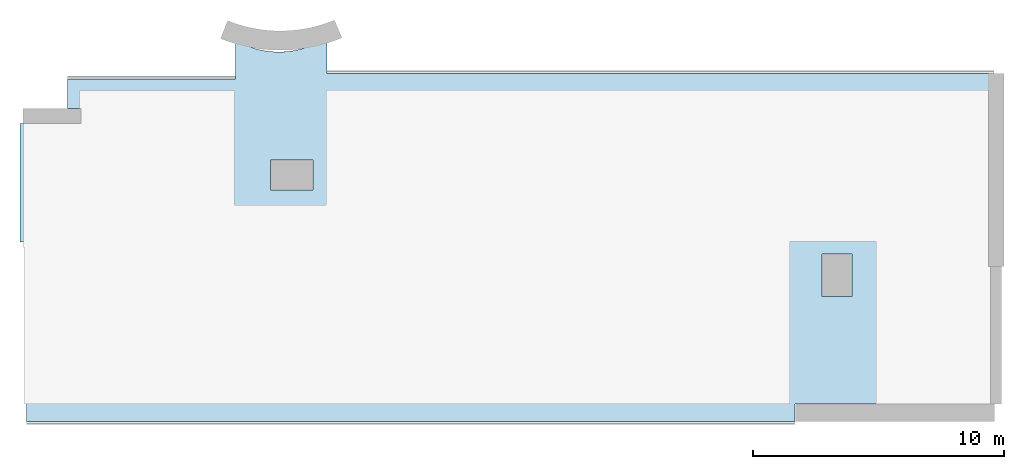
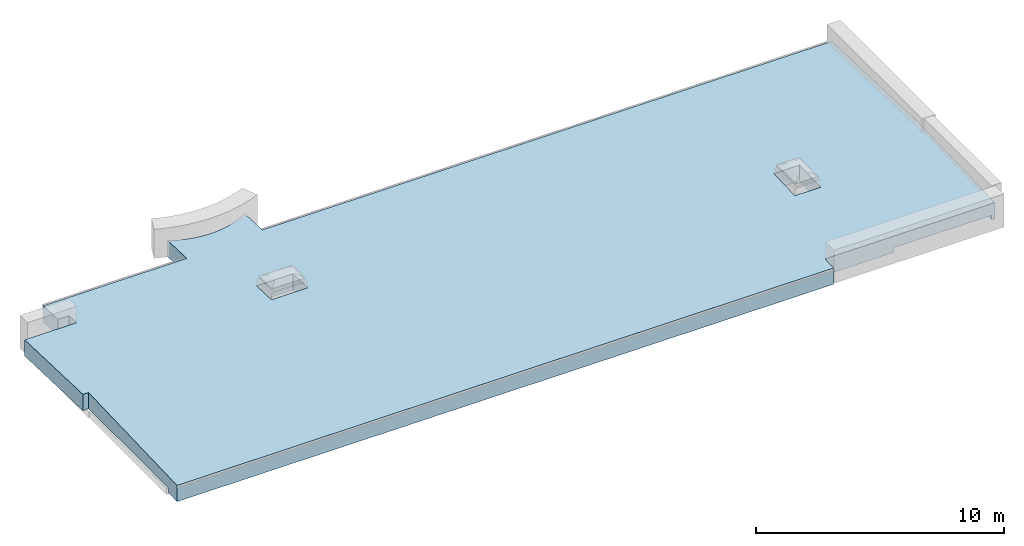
# One storey, part 2 of 4: 1 roof.
"""IFC2X3 building model written with IfcOpenShell, lengths in millimetres."""

from ifc_helpers import new_model, entity, si_unit, converted_unit, derived_unit, direction, frame, origin, place, context, subcontext, project, spatial, faceted_brep, material, layer, layer_set, element, save


model = new_model("IFC2X3")

# Units and contexts
model_context = context("Model", 3, precision=0.01, world=origin(), true_north=direction((6.12303176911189e-17, 1.0)))
body_context = subcontext(model_context, "Body", "Model", "MODEL_VIEW")
ifc_project = project(units=[si_unit("LENGTHUNIT", "METRE", prefix="MILLI"), si_unit("AREAUNIT", "SQUARE_METRE"), si_unit("VOLUMEUNIT", "CUBIC_METRE"), converted_unit("PLANEANGLEUNIT", "DEGREE", entity("IfcRatioMeasure", 0.0174532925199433), si_unit("PLANEANGLEUNIT", "RADIAN"), dimensions=[0, 0, 0, 0, 0, 0, 0]), si_unit("MASSUNIT", "GRAM", prefix="KILO"), derived_unit("MASSDENSITYUNIT", [(si_unit("MASSUNIT", "GRAM", prefix="KILO"), 1), (si_unit("LENGTHUNIT", "METRE"), -3)]), si_unit("TIMEUNIT", "SECOND"), si_unit("FREQUENCYUNIT", "HERTZ"), si_unit("THERMODYNAMICTEMPERATUREUNIT", "DEGREE_CELSIUS"), derived_unit("THERMALTRANSMITTANCEUNIT", [(si_unit("MASSUNIT", "GRAM", prefix="KILO"), 1), (si_unit("THERMODYNAMICTEMPERATUREUNIT", "KELVIN"), -1), (si_unit("TIMEUNIT", "SECOND"), -3)]), derived_unit("VOLUMETRICFLOWRATEUNIT", [(si_unit("LENGTHUNIT", "METRE"), 3), (si_unit("TIMEUNIT", "SECOND"), -1)]), si_unit("ELECTRICCURRENTUNIT", "AMPERE"), si_unit("ELECTRICVOLTAGEUNIT", "VOLT"), si_unit("POWERUNIT", "WATT"), si_unit("FORCEUNIT", "NEWTON", prefix="KILO"), si_unit("ILLUMINANCEUNIT", "LUX"), si_unit("LUMINOUSFLUXUNIT", "LUMEN"), si_unit("LUMINOUSINTENSITYUNIT", "CANDELA"), derived_unit("USERDEFINED", [(si_unit("MASSUNIT", "GRAM", prefix="KILO"), -1), (si_unit("LENGTHUNIT", "METRE"), -2), (si_unit("TIMEUNIT", "SECOND"), 3), (si_unit("LUMINOUSFLUXUNIT", "LUMEN"), 1)]), derived_unit("LINEARVELOCITYUNIT", [(si_unit("LENGTHUNIT", "METRE"), 1), (si_unit("TIMEUNIT", "SECOND"), -1)]), si_unit("PRESSUREUNIT", "PASCAL"), derived_unit("USERDEFINED", [(si_unit("LENGTHUNIT", "METRE"), -2), (si_unit("MASSUNIT", "GRAM", prefix="KILO"), 1), (si_unit("TIMEUNIT", "SECOND"), -2)]), derived_unit("LINEARFORCEUNIT", [(si_unit("MASSUNIT", "GRAM", prefix="KILO"), 1), (si_unit("LENGTHUNIT", "METRE"), 1), (si_unit("TIMEUNIT", "SECOND"), -2), (si_unit("LENGTHUNIT", "METRE"), -1)]), derived_unit("PLANARFORCEUNIT", [(si_unit("MASSUNIT", "GRAM", prefix="KILO"), 1), (si_unit("LENGTHUNIT", "METRE"), 1), (si_unit("TIMEUNIT", "SECOND"), -2), (si_unit("LENGTHUNIT", "METRE"), -2)])], contexts=[model_context])

# Site, building, storey
site_placement = place(None, origin())
site = spatial("IfcSite", under=ifc_project, at=site_placement, Name="Default", CompositionType="ELEMENT")
building_placement = place(site_placement, origin())
building = spatial("IfcBuilding", under=site, at=building_placement, Name="SMA ARH", CompositionType="ELEMENT")
storey_placement = place(building_placement, frame((0.0, 0.0, 13000.0)))
storey = spatial("IfcBuildingStorey", under=building, at=storey_placement, Name="Katus", CompositionType="ELEMENT", Elevation=12999.9999999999)

# Roof
ifc_material = material(Name="_ol.olev sein")
ifc_layer = layer(ifc_material, 800.0)
ifc_layer_set = layer_set([ifc_layer], Name="Basic Roof:Generic - 400mm")
roof_placement = place(storey_placement, frame((-226.757150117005, -700.0, -91.8913873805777)))
element("IfcRoof", 1, at=roof_placement, inside=storey, material=ifc_layer_set, Name="Basic Roof:Generic - 400mm", ObjectType="Basic Roof:Generic - 400mm", ShapeType="NOTDEFINED", context=body_context, shape_type="Brep", body=[
    faceted_brep([(38646.6581492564, 6314.92674997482, 272.413488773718), (38571.7571501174, 6314.92674997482, 272.413488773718), (38571.7571501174, 6932.49999999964, 293.979621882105), (38800.0, 6932.49999999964, 293.979621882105), (38800.0, 6180.0, 267.701742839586), (38800.0, 700.0, 76.3359260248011), (38646.6581492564, 700.0, 76.3359260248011), (38646.6581492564, 6180.0, 267.701742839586), (30676.7571501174, 700.0, 76.3359260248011), (250.0, 0.0, 51.8913873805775), (250.0, 700.0, 76.3359260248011), (30873.6581492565, 0.0, 51.8913873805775), (30873.6581492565, 700.0, 76.3359260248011), (31941.7571501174, 4980.0, 225.796819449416), (30676.7571501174, 6932.49999999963, 293.979621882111), (31941.7571501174, 6680.0, 285.162127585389), (33966.7571501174, 6932.49999999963, 293.979621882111), (33141.7571501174, 6680.0, 285.162127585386), (33141.7571501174, 4980.0, 225.796819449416), (34091.7571501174, 6932.49999999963, 293.979621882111), (34091.7571501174, 700.0, 76.3359260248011), (0.0, 11480.0, 135.177422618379), (0.0, 11870.0, 121.558322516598), (146.756622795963, 11870.0, 121.558322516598), (146.756622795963, 7160.0, 286.035146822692), (0.0, 7160.0, 286.035146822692), (0.0, 7420.0, 276.955746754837), (30676.7571501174, 6940.0, 293.717716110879), (30676.7571501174, 7180.0, 285.336731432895), (34091.7571501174, 7180.0, 285.336731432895), (12066.4543907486, 15202.2270705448, 5.19438909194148), (12230.0, 15305.2922924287, 1.5952722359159), (12230.0, 15069.9666790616, 9.81302373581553), (11897.392740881, 15108.4867688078, 8.46787256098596), (11723.3451920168, 15024.3651839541, 11.4054630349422), (12230.0, 13865.0, 51.8913873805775), (11544.8587183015, 14950.126610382, 13.9979311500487), (11362.4939263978, 14886.0041337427, 16.237137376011), (11176.823592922, 14832.1990757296, 18.1160514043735), (10988.4308669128, 14788.8803628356, 19.6287741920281), (10797.9074398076, 14756.1839966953, 20.7705564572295), (12186.7571501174, 13200.0, 75.113699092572), (12226.7571501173, 13200.0, 75.113699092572), (12296.7571501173, 13865.0, 51.8913873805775), (38571.7571501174, 13200.0, 75.113699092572), (38800.0, 13865.0, 51.8913873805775), (38800.0, 13200.0, 75.113699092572), (38800.0, 11144.5559381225, 146.891387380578), (38571.7571501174, 11144.5559381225, 146.891387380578), (10605.8516886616, 14734.2126276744, 21.5378135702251), (10412.8667984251, 14723.0352330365, 21.9281367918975), (8536.75715011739, 13176.2030428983, 75.9447071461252), (9976.54126785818, 10420.0, 172.193438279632), (11676.5412678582, 10420.0, 172.193438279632), (12186.7571501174, 8620.0, 235.050823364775), (11676.5412678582, 9220.0, 214.098361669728), (11826.7571501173, 8620.0, 235.050823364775), (9976.54126785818, 9220.0, 214.098361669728), (8536.75715011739, 8620.0, 235.050823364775), (10219.5588691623, 14722.6869006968, 21.9403008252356), (10026.5350141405, 14733.1687192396, 21.5742676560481), (8580.0, 13646.2030428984, 59.5319454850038), (2371.75715011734, 13646.2030428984, 59.5319454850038), (2371.75715011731, 13176.2030428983, 75.9447071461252), (1895.0, 13646.2030428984, 59.5319454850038), (1895.0, 12470.0, 100.605860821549), (2371.75715011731, 12470.0, 100.605860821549), (9834.40145474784, 14754.4477745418, 20.8311866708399), (9643.76161820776, 14786.4572530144, 19.7133910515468), (9455.21424404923, 14829.0966511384, 18.2243904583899), (9269.35150526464, 14882.2320906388, 16.3688600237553), (9086.7571501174, 14945.6967382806, 14.1526256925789), (8977.47992745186, 14989.2917550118, 12.6302541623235), (8580.0, 15046.9768807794, 10.6158451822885), (8869.77109057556, 15036.5800548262, 10.9789103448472), (8723.11689969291, 15108.222633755, 8.47709636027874), (8580.0, 15186.732189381, 5.73548226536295), (12230.0, 15305.2922924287, 802.082907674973), (12058.5187975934, 15197.5458372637, 805.845496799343), (12230.0, 15069.9666790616, 810.300659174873), (11881.009497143, 15100.0494289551, 809.250146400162), (11698.0840700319, 15013.1391908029, 812.285118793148), (12230.0, 13865.0, 852.379022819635), (11510.3731599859, 14937.1147498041, 814.939950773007), (11318.523908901, 14872.2382036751, 817.205489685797), (11123.1977257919, 14818.7332172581, 819.073924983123), (10925.0680065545, 14776.7842514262, 820.538815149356), (10724.817812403, 14746.5359271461, 821.595109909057), (10523.1375149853, 14728.0925268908, 822.239167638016), (10320.7224162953, 14721.5176351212, 822.468767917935), (9976.54126785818, 10420.0, 972.681073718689), (8580.0, 13646.2030428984, 860.019580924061), (10118.2703515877, 14726.8339190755, 822.283119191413), (9916.47928355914, 14744.0230506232, 821.682861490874), (9716.04489609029, 14773.0257694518, 820.670064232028), (9517.65819584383, 14813.7420873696, 819.248219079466), (9322.00312998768, 14866.0316330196, 817.422227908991), (9129.75422825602, 14929.7141358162, 815.198385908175), (8941.57427747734, 15004.5700474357, 812.584359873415), (8758.11203658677, 15090.34129872, 809.589161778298), (8580.0, 15186.732189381, 806.22311770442), (2415.0, 11870.0, 922.045957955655), (2415.0, 12470.0, 901.093496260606), (1895.0, 13646.2030428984, 860.019580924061), (1895.0, 12470.0, 901.093496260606), (9976.54126785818, 9220.0, 1014.58599710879), (250.0, 7160.0, 1086.52278226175), (0.0, 7420.0, 1077.44338219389), (0.0, 11480.0, 935.665058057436), (0.0, 11870.0, 922.045957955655), (0.0, 7160.0, 1086.52278226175), (250.0, 6932.49999999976, 1094.46725732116), (11676.5412678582, 9220.0, 1014.58599710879), (38571.7571501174, 6932.49999999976, 1094.46725732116), (12296.7571501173, 13865.0, 852.379022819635), (38571.7571501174, 13865.0, 852.379022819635), (38800.0, 13865.0, 852.379022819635), (38800.0, 6932.49999999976, 1094.46725732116), (11676.5412678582, 10420.0, 972.681073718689), (250.0, 0.0, 852.379022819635), (30873.6581492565, 0.0, 852.379022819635), (30873.6581492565, 700.0, 876.823561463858), (31941.7571501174, 6680.0, 1085.64976302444), (31941.7571501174, 4980.0, 1026.28445488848), (33141.7571501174, 4980.0, 1026.28445488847), (38646.6581492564, 700.0, 876.823561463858), (38800.0, 6180.0, 1068.18937827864), (38800.0, 700.0, 876.823561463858), (33141.7571501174, 6680.0, 1085.64976302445), (38800.0, 13865.0, 146.891387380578), (250.0, 0.0, 191.891387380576), (30873.6581492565, 0.0, 191.891387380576), (2415.0, 12470.0, 302.941387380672), (2415.0, 11870.0, 302.941387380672), (2371.75715011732, 11870.0, 302.941387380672), (146.756622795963, 11870.0, 302.941387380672), (146.756622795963, 7160.0, 302.941387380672), (250.0, 7160.0, 302.941387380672), (2371.75715011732, 12470.0, 302.941387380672), (1895.0, 12470.0, 191.891387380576), (2371.75715011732, 12470.0, 191.891387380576), (1895.0, 13646.2030428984, 191.891387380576), (250.0, 700.0, 302.941387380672), (250.0, 700.0, 191.891387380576), (8580.0, 13646.2030428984, 291.891387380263), (34091.7571501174, 700.0, 302.941387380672), (38646.6581492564, 700.0, 302.941387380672), (30873.6581492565, 700.0, 191.891387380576), (2371.75715011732, 13176.2030428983, 302.941387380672), (8536.75715011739, 13176.2030428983, 302.941387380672), (8536.75715011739, 8620.0, 302.941387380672), (12186.7571501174, 8620.0, 302.941387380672), (12186.7571501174, 13200.0, 302.941387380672), (38571.7571501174, 13200.0, 302.941387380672), (38571.7571501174, 6314.92674997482, 302.941387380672), (38646.6581492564, 6314.92674997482, 302.941387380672), (34091.7571501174, 7180.0, 302.941387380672), (30676.7571501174, 7180.0, 302.941387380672), (30676.7571501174, 700.0, 302.941387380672)], [[[0, 1, 2, 3, 4, 5, 6, 7]], [[0, 1, 2]], [[2, 3, 0]], [[4, 0, 3]], [[7, 0, 4]], [[4, 5, 7]], [[6, 7, 5]], [[8, 9, 10]], [[11, 9, 8]], [[11, 8, 12]], [[12, 8, 13]], [[13, 8, 14]], [[14, 15, 13]], [[14, 16, 15]], [[16, 17, 15]], [[18, 17, 16]], [[16, 19, 18]], [[19, 20, 18]], [[18, 20, 13]], [[12, 13, 20]], [[21, 22, 23, 24, 25, 26]], [[16, 14, 27, 28, 29, 19]], [[21, 23, 24]], [[22, 23, 21]], [[26, 21, 24]], [[24, 25, 26]], [[16, 29, 19]], [[28, 29, 16]], [[16, 27, 28]], [[16, 14, 27]], [[30, 31, 32]], [[33, 30, 32]], [[32, 34, 33]], [[34, 32, 35]], [[35, 36, 34]], [[35, 37, 36]], [[35, 38, 37]], [[35, 39, 38]], [[35, 40, 39]], [[40, 35, 41]], [[35, 42, 41]], [[42, 35, 43]], [[43, 44, 42]], [[44, 43, 45]], [[44, 45, 46]], [[47, 44, 46]], [[48, 44, 47]], [[48, 47, 2]], [[3, 2, 47]], [[49, 40, 41]], [[50, 49, 41]], [[41, 51, 50]], [[51, 41, 52]], [[41, 53, 52]], [[54, 53, 41]], [[53, 54, 55]], [[56, 55, 54]], [[57, 55, 56]], [[56, 58, 57]], [[58, 52, 57]], [[52, 58, 51]], [[59, 50, 51]], [[60, 59, 51]], [[61, 60, 51]], [[61, 51, 62]], [[51, 63, 62]], [[64, 62, 63]], [[65, 64, 63]], [[66, 65, 63]], [[60, 61, 67]], [[67, 61, 68]], [[61, 69, 68]], [[70, 69, 61]], [[70, 61, 71]], [[72, 71, 61]], [[61, 73, 72]], [[73, 74, 72]], [[74, 73, 75]], [[73, 76, 75]], [[77, 78, 79]], [[80, 79, 78]], [[79, 80, 81]], [[82, 79, 81]], [[82, 81, 83]], [[82, 83, 84]], [[82, 84, 85]], [[85, 86, 82]], [[86, 87, 82]], [[82, 87, 88]], [[88, 89, 82]], [[90, 82, 89]], [[91, 90, 89]], [[91, 89, 92]], [[91, 92, 93]], [[93, 94, 91]], [[94, 95, 91]], [[96, 91, 95]], [[96, 97, 91]], [[98, 91, 97]], [[99, 91, 98]], [[99, 100, 91]], [[90, 91, 101]], [[101, 91, 102]], [[91, 103, 102]], [[104, 102, 103]], [[90, 101, 105]], [[105, 101, 106]], [[107, 106, 101]], [[107, 101, 108]], [[101, 109, 108]], [[110, 106, 107]], [[106, 111, 105]], [[105, 111, 112]], [[113, 112, 111]], [[113, 114, 112]], [[113, 115, 114]], [[116, 115, 113]], [[116, 113, 117]], [[118, 112, 114]], [[118, 114, 82]], [[90, 118, 82]], [[119, 120, 121]], [[119, 121, 111]], [[121, 122, 111]], [[122, 121, 123]], [[123, 121, 124]], [[125, 124, 121]], [[126, 124, 125]], [[126, 125, 127]], [[124, 126, 113]], [[126, 117, 113]], [[111, 122, 113]], [[128, 113, 122]], [[128, 124, 113]], [[129, 45, 43, 35, 82, 114, 115, 116]], [[130, 9, 11, 131, 120, 119]], [[5, 4, 3, 47, 46, 45, 129, 116, 117, 126, 127]], [[82, 35, 32, 31, 77, 79]], [[31, 30, 77]], [[34, 36, 81]], [[33, 34, 80]], [[30, 33, 78]], [[37, 38, 84]], [[40, 49, 87]], [[39, 40, 86]], [[38, 39, 85]], [[36, 37, 83]], [[80, 78, 33]], [[36, 83, 81]], [[34, 81, 80]], [[77, 30, 78]], [[38, 85, 84]], [[84, 83, 37]], [[39, 86, 85]], [[87, 86, 40]], [[49, 88, 87]], [[50, 89, 88]], [[88, 49, 50]], [[69, 70, 96]], [[67, 68, 94]], [[60, 67, 93]], [[69, 95, 68]], [[75, 76, 100]], [[72, 74, 98]], [[71, 72, 98]], [[75, 99, 74]], [[70, 71, 97]], [[93, 92, 60]], [[67, 94, 93]], [[59, 92, 89]], [[59, 60, 92]], [[59, 89, 50]], [[98, 97, 71]], [[96, 70, 97]], [[95, 94, 68]], [[96, 95, 69]], [[74, 99, 98]], [[75, 100, 99]], [[102, 132, 133, 101]], [[101, 133, 134, 135, 23, 22, 109]], [[22, 21, 26, 25, 110, 107, 108, 109]], [[110, 25, 24, 136, 137, 106]], [[138, 132, 102, 104, 139, 65, 66, 140]], [[141, 64, 65, 139, 104, 103]], [[137, 142, 143, 10, 9, 130, 119, 111, 106]], [[76, 73, 61, 144, 91, 100]], [[144, 61, 62, 64, 141, 103, 91]], [[12, 20, 145, 146, 6, 5, 127, 125, 121, 147]], [[131, 11, 12, 147, 121, 120]], [[112, 118, 53, 55]], [[105, 112, 55, 57]], [[90, 105, 57, 52]], [[118, 90, 52, 53]], [[124, 18, 13, 123]], [[123, 13, 15, 122]], [[122, 15, 17, 128]], [[124, 128, 17, 18]], [[135, 136, 24, 23]], [[140, 66, 63, 148, 138]], [[148, 63, 51, 149]], [[149, 51, 58, 150]], [[151, 150, 58, 56, 54]], [[152, 151, 54, 41]], [[153, 152, 41, 42, 44]], [[153, 44, 48, 2, 1, 154]], [[154, 1, 0, 155]], [[146, 155, 0, 7, 6]], [[156, 145, 20, 19, 29]], [[157, 156, 29, 28]], [[157, 28, 27, 14, 8, 158]], [[143, 142, 158, 8, 10]], [[132, 138, 148, 149, 150, 151, 152, 153, 154, 155, 146, 145, 156, 157, 158, 142, 137, 136, 135, 134, 133]]]),
])

save(model, "model.ifc")
